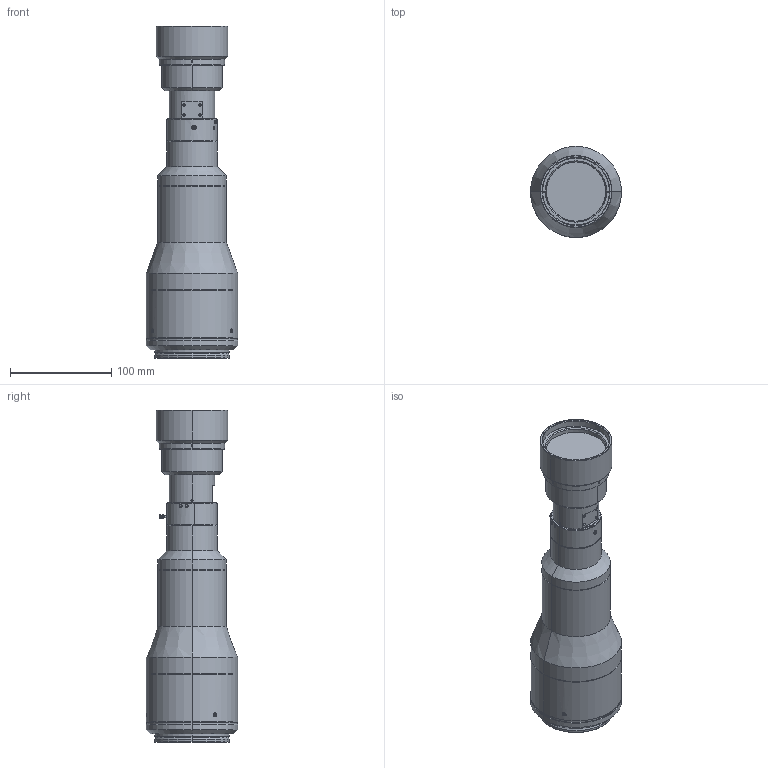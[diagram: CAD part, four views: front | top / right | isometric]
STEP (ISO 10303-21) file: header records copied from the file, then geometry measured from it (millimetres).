
FILE_DESCRIPTION (( 'STEP AP203' ), '1' );
FILE_NAME ('A22609A0000101A.STEP', '2016-11-30T08:00:09', ( '' ), ( '' ), 'SwSTEP 2.0', 'SolidWorks 2014', '' );
FILE_SCHEMA (( 'CONFIG_CONTROL_DESIGN' ));
Length unit declared in the file: millimetre
Products named in the file (1): A22609A0000101A
Bounding box: 90 x 90 x 328.08 mm (x, y, z)
Volume: 1159691.7 mm3; surface area: 93193.6 mm2
Topology: 1 solids, 1 shells, 459 faces, 1175 edges, 752 vertices
Faces by surface type: cylinder 188, plane 145, cone 88, bspline 36, torus 2
Entity records: 22155 total; most frequent: CARTESIAN_POINT 11757, ORIENTED_EDGE 2334, DIRECTION 1854, EDGE_CURVE 1167, VERTEX_POINT 752, AXIS2_PLACEMENT_3D 710, EDGE_LOOP 501, ADVANCED_FACE 459
